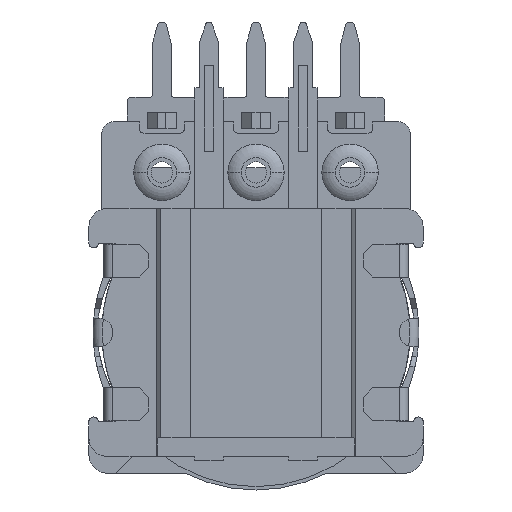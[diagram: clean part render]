
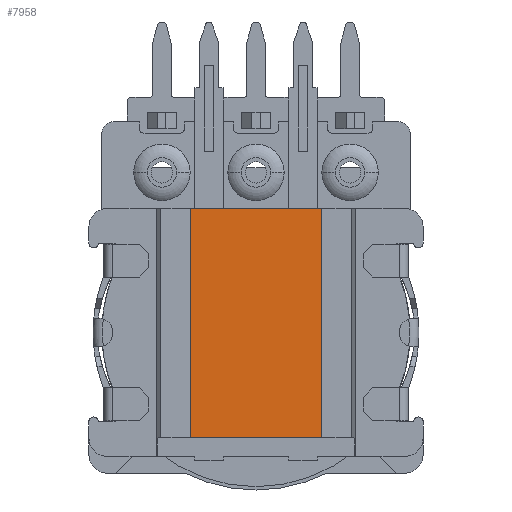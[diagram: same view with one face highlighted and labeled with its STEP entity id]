
A CAD part, front view. The second image highlights one B-rep face of the part: STEP entity #7958.
In plain terms, the highlighted planar face has unit normal (0, -1, 0) as drawn and (0, 0, -1) by its records, which use the part's own axes.
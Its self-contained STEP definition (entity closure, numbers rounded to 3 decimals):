
#147 = ORIENTED_EDGE ( 'NONE', *, *, #9206, .F. ) ;
#1419 = CARTESIAN_POINT ( 'NONE',  ( 3.5, 17.517, -1.15 ) ) ;
#1780 = EDGE_CURVE ( 'NONE', #15555, #17791, #13153, .T. ) ;
#1885 = VECTOR ( 'NONE', #11142, 1000. ) ;
#2031 = CARTESIAN_POINT ( 'NONE',  ( 3.5, -6.6, -1.15 ) ) ;
#2196 = CARTESIAN_POINT ( 'NONE',  ( -3.49, -6.6, -1.15 ) ) ;
#3810 = VECTOR ( 'NONE', #15272, 1000. ) ;
#5620 = LINE ( 'NONE', #2031, #1885 ) ;
#7096 = EDGE_LOOP ( 'NONE', ( #10449, #15614, #147, #14866 ) ) ;
#7544 = CARTESIAN_POINT ( 'NONE',  ( 3.5, -6.6, -1.15 ) ) ;
#7925 = VERTEX_POINT ( 'NONE', #18615 ) ;
#7958 = ADVANCED_FACE ( 'NONE', ( #16650 ), #20996, .T. ) ;
#8129 = LINE ( 'NONE', #11350, #3810 ) ;
#8254 = LINE ( 'NONE', #14825, #15872 ) ;
#9206 = EDGE_CURVE ( 'NONE', #17791, #19590, #5620, .T. ) ;
#9310 = EDGE_CURVE ( 'NONE', #7925, #15555, #8254, .T. ) ;
#10290 = DIRECTION ( 'NONE',  ( -1., 0., 0. ) ) ;
#10449 = ORIENTED_EDGE ( 'NONE', *, *, #9310, .F. ) ;
#11142 = DIRECTION ( 'NONE',  ( 1., 0., 0. ) ) ;
#11350 = CARTESIAN_POINT ( 'NONE',  ( 3.5, 17.517, -1.15 ) ) ;
#11516 = EDGE_CURVE ( 'NONE', #7925, #19590, #8129, .T. ) ;
#11618 = VECTOR ( 'NONE', #20639, 1000. ) ;
#11900 = DIRECTION ( 'NONE',  ( 0., 0., -1. ) ) ;
#13153 = LINE ( 'NONE', #13487, #11618 ) ;
#13487 = CARTESIAN_POINT ( 'NONE',  ( -3.49, 17.517, -1.15 ) ) ;
#14072 = AXIS2_PLACEMENT_3D ( 'NONE', #1419, #11900, #10290 ) ;
#14825 = CARTESIAN_POINT ( 'NONE',  ( 3.5, 5.6, -1.15 ) ) ;
#14866 = ORIENTED_EDGE ( 'NONE', *, *, #1780, .F. ) ;
#15272 = DIRECTION ( 'NONE',  ( 0., -1., 0. ) ) ;
#15555 = VERTEX_POINT ( 'NONE', #20068 ) ;
#15614 = ORIENTED_EDGE ( 'NONE', *, *, #11516, .T. ) ;
#15872 = VECTOR ( 'NONE', #18523, 1000. ) ;
#16650 = FACE_OUTER_BOUND ( 'NONE', #7096, .T. ) ;
#17791 = VERTEX_POINT ( 'NONE', #2196 ) ;
#18523 = DIRECTION ( 'NONE',  ( -1., 0., 0. ) ) ;
#18615 = CARTESIAN_POINT ( 'NONE',  ( 3.5, 5.6, -1.15 ) ) ;
#19590 = VERTEX_POINT ( 'NONE', #7544 ) ;
#20068 = CARTESIAN_POINT ( 'NONE',  ( -3.49, 5.6, -1.15 ) ) ;
#20639 = DIRECTION ( 'NONE',  ( 0., -1., 0. ) ) ;
#20996 = PLANE ( 'NONE',  #14072 ) ;
